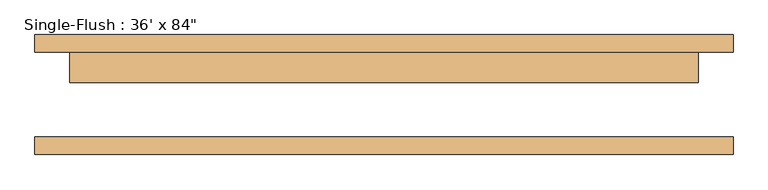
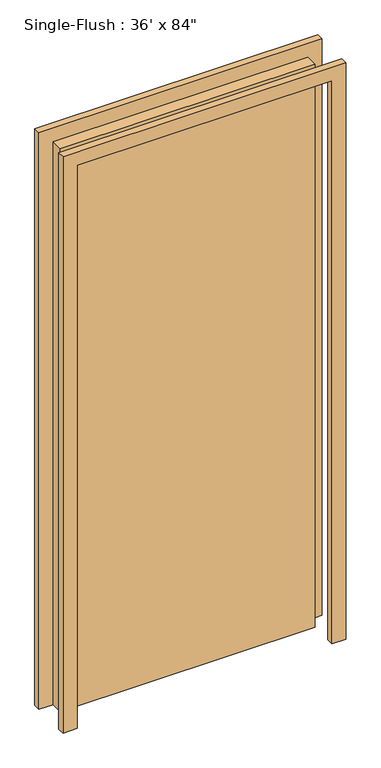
"""IFC4 building model written with IfcOpenShell, lengths in millimetres: door geometry."""

from ifc_helpers import new_model, si_unit, frame, origin, origin_with_axes, place, context, project, spatial, polyline, outline, extrude, source, transform, mapped, element, save


def door_e5d25033(model_context):
    return source(origin(), model_context, "Body", "SweptSolid", [
        extrude(outline(polyline([(2184.4, -508.0), (0.0, -508.0), (0.0, -457.2), (2133.6, -457.2), (2133.6, 457.2), (0.0, 457.2), (0.0, 508.0), (2184.4, 508.0), (2184.4, -508.0)])), frame((0.0, 61.9125, 0.0), z_axis=(0.0, 1.0, 0.0), x_axis=(0.0, 0.0, 1.0)), (0.0, 0.0, 1.0), 25.4),
        extrude(outline(polyline([(2184.4, 508.0), (2184.4, -508.0), (0.0, -508.0), (0.0, -457.2), (2133.6, -457.2), (2133.6, 457.2), (0.0, 457.2), (0.0, 508.0), (2184.4, 508.0)])), frame((0.0, -87.3125, 0.0), z_axis=(0.0, 1.0, 0.0), x_axis=(0.0, 0.0, 1.0)), (0.0, 0.0, 1.0), 25.4),
        extrude(outline(polyline([(457.2, 17.4625), (-457.2, 17.4625), (-457.2, 61.9125), (457.2, 61.9125), (457.2, 17.4625)])), origin_with_axes(), (0.0, 0.0, 1.0), 2133.6),
    ])


if __name__ == "__main__":
    model = new_model("IFC4")
    model_context = context("Model", 3, world=origin())
    ifc_project = project(units=[si_unit("LENGTHUNIT", "METRE", prefix="MILLI")], contexts=[model_context])
    site = spatial("IfcSite", under=ifc_project)
    building = spatial("IfcBuilding", under=site)
    placement = place(None, origin())
    door_shape = door_e5d25033(model_context)
    element("IfcDoor", 1, ObjectType="Single-Flush : 36' x 84\"", at=placement, inside=building, context=model_context, shape_type="MappedRepresentation", body=[
        mapped(door_shape, transform((0.0, 0.0, 0.0), x_axis=(1.0, 0.0, 0.0), y_axis=(0.0, 1.0, 0.0), z_axis=(0.0, 0.0, 1.0))),
    ])
    save(model, "model.ifc")
